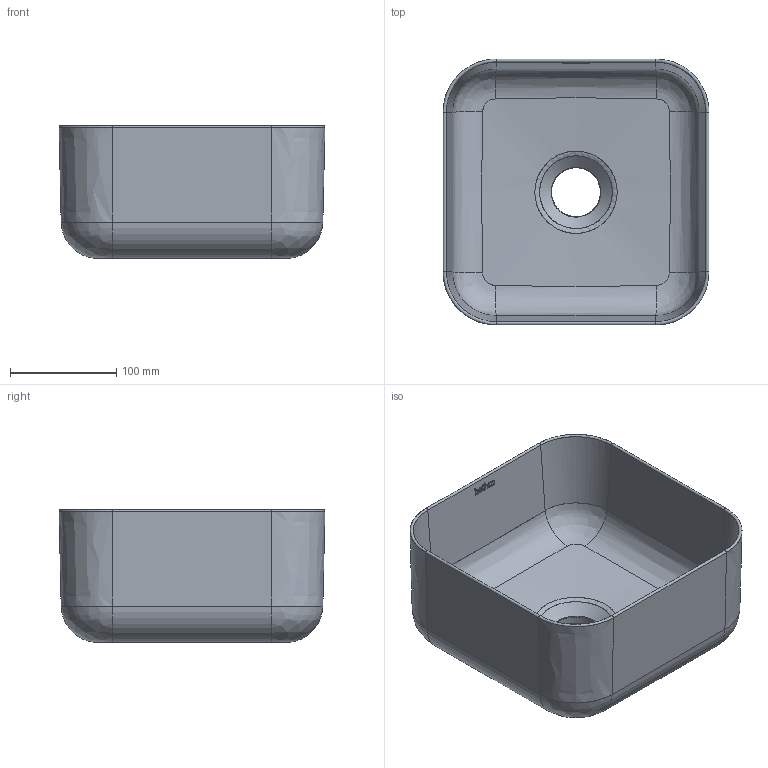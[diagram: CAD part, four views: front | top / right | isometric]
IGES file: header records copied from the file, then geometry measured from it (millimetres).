
Global section: file name: C:\Users\hp\Desktop\4917_4919_4920_Cube 25\4917_4919_4920_CUBE 25.igs; native system: Rhinoceros ( Mar  7 2025 ); preprocessor: Trout Lake IGES 012 Mar  7 2025; date: 250401.102101; units: millimetre
Bounding box: 250 x 250 x 125 mm (x, y, z)
Surface area: 287872.8 mm2 (no closed solid volume)
Topology: 0 solids, 0 shells, 112 faces, 714 edges, 705 vertices
Faces by surface type: bspline 112
